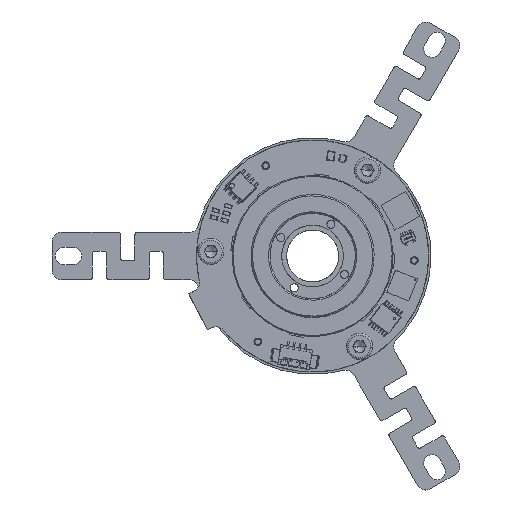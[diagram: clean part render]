
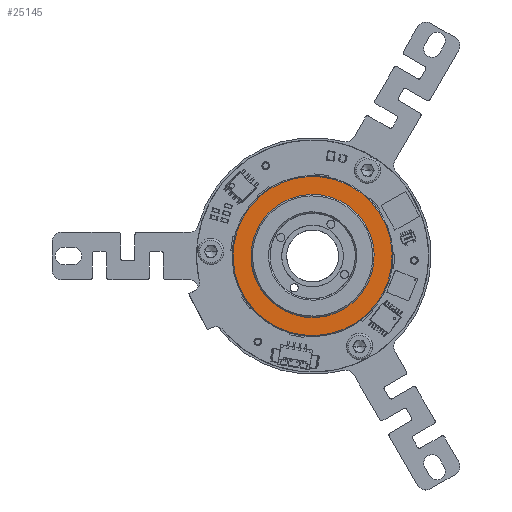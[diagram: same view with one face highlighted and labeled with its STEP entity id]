
A CAD part, front view. The second image highlights one B-rep face of the part: STEP entity #25145.
In plain terms, the highlighted planar face has unit normal (0, -1, 0).
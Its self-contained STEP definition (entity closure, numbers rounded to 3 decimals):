
#393=CARTESIAN_POINT('',(-180.85,19.39,-1.671));
#394=DIRECTION('',(0.,-1.,0.));
#395=DIRECTION('',(0.866,0.,-0.5));
#396=AXIS2_PLACEMENT_3D('',#393,#394,#395);
#402=CARTESIAN_POINT('',(-180.85,19.39,-1.671));
#403=DIRECTION('',(0.,-1.,0.));
#404=DIRECTION('',(0.866,0.,-0.5));
#405=AXIS2_PLACEMENT_3D('',#402,#403,#404);
#407=CARTESIAN_POINT('',(-180.85,19.39,-1.671));
#408=DIRECTION('',(0.,-1.,0.));
#409=DIRECTION('',(-0.866,0.,0.5));
#410=AXIS2_PLACEMENT_3D('',#407,#408,#409);
#412=CARTESIAN_POINT('',(-180.85,19.39,-1.671));
#413=DIRECTION('',(0.,-1.,0.));
#414=DIRECTION('',(-0.866,0.,0.5));
#415=AXIS2_PLACEMENT_3D('',#412,#413,#414);
#23123=CARTESIAN_POINT('',(-195.4,19.39,
6.729));
#23124=VERTEX_POINT('',#23123);
#23125=CARTESIAN_POINT('',(-166.301,19.39,
-10.071));
#23126=VERTEX_POINT('',#23125);
#23127=CARTESIAN_POINT('',(-169.592,19.39,
-8.171));
#23128=CARTESIAN_POINT('',(-192.109,19.39,
4.829));
#23129=VERTEX_POINT('',#23127);
#23130=VERTEX_POINT('',#23128);
#25129=CARTESIAN_POINT('',(-23.394,19.39,
-90.649));
#25130=DIRECTION('',(0.,-1.,0.));
#25131=DIRECTION('',(0.866,0.,-0.5));
#25132=AXIS2_PLACEMENT_3D('',#25129,#25130,#25131);
#25133=PLANE('',#25132);
#25135=ORIENTED_EDGE('',*,*,#25134,.F.);
#25136=ORIENTED_EDGE('',*,*,#25112,.F.);
#25137=EDGE_LOOP('',(#25135,#25136));
#25138=FACE_OUTER_BOUND('',#25137,.F.);
#25140=ORIENTED_EDGE('',*,*,#25139,.T.);
#25142=ORIENTED_EDGE('',*,*,#25141,.T.);
#25143=EDGE_LOOP('',(#25140,#25142));
#25144=FACE_BOUND('',#25143,.F.);
#25145=ADVANCED_FACE('',(#25138,#25144),#25133,.T.);
#397=CIRCLE('',#396,16.8);
#406=CIRCLE('',#405,13.);
#411=CIRCLE('',#410,13.);
#416=CIRCLE('',#415,16.8);
#25112=EDGE_CURVE('',#23126,#23124,#397,.T.);
#25134=EDGE_CURVE('',#23124,#23126,#416,.T.);
#25139=EDGE_CURVE('',#23129,#23130,#406,.T.);
#25141=EDGE_CURVE('',#23130,#23129,#411,.T.);
